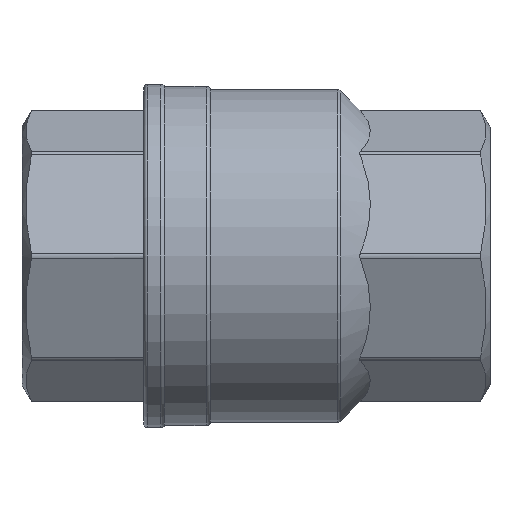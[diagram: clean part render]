
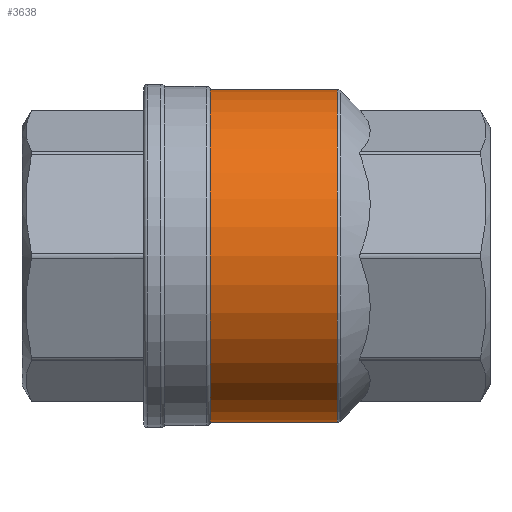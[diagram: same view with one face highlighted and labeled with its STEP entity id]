
A CAD part, front view. The second image highlights one B-rep face of the part: STEP entity #3638.
In plain terms, the highlighted cylindrical face has radius 80 mm (diameter 160 mm), a partial arc.
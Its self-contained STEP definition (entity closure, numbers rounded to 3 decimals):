
#356 = CARTESIAN_POINT ( 'NONE',  ( 39.172, 0., 0. ) ) ;
#371 = DIRECTION ( 'NONE',  ( -1., 0., 0. ) ) ;
#372 = DIRECTION ( 'NONE',  ( 0., 0., -1. ) ) ;
#373 = CARTESIAN_POINT ( 'NONE',  ( -22., 0., 0. ) ) ;
#375 = DIRECTION ( 'NONE',  ( 1., 0., 0. ) ) ;
#376 = DIRECTION ( 'NONE',  ( 0., 0., 1. ) ) ;
#833 = CARTESIAN_POINT ( 'NONE',  ( -22., 0., -80. ) ) ;
#834 = DIRECTION ( 'NONE',  ( 1., 0., 0. ) ) ;
#861 = CARTESIAN_POINT ( 'NONE',  ( -22., 0., 80. ) ) ;
#862 = DIRECTION ( 'NONE',  ( 1., 0., 0. ) ) ;
#1529 = CYLINDRICAL_SURFACE ( 'NONE', #2105, 80. ) ;
#1535 = FACE_OUTER_BOUND ( 'NONE', #3061, .T. ) ;
#1770 = DIRECTION ( 'NONE',  ( 1., 0., 0. ) ) ;
#1773 = DIRECTION ( 'NONE',  ( 0., 0., -1. ) ) ;
#1778 = CARTESIAN_POINT ( 'NONE',  ( -22., 0., 0. ) ) ;
#1996 = AXIS2_PLACEMENT_3D ( 'NONE', #373, #375, #376 ) ;
#1998 = AXIS2_PLACEMENT_3D ( 'NONE', #356, #371, #372 ) ;
#2105 = AXIS2_PLACEMENT_3D ( 'NONE', #1778, #1770, #1773 ) ;
#2184 = CARTESIAN_POINT ( 'NONE',  ( 39.172, 0., -80. ) ) ;
#2186 = CARTESIAN_POINT ( 'NONE',  ( 39.172, 0., 80. ) ) ;
#2226 = VERTEX_POINT ( 'NONE', #2186 ) ;
#2228 = VERTEX_POINT ( 'NONE', #2184 ) ;
#2254 = VERTEX_POINT ( 'NONE', #2444 ) ;
#2260 = VERTEX_POINT ( 'NONE', #2438 ) ;
#2438 = CARTESIAN_POINT ( 'NONE',  ( -22., 0., -80. ) ) ;
#2444 = CARTESIAN_POINT ( 'NONE',  ( -22., 0., 80. ) ) ;
#2490 = LINE ( 'NONE', #833, #2505 ) ;
#2491 = VECTOR ( 'NONE', #862, 1000. ) ;
#2505 = VECTOR ( 'NONE', #834, 1000. ) ;
#2506 = LINE ( 'NONE', #861, #2491 ) ;
#2639 = CIRCLE ( 'NONE', #1996, 80. ) ;
#2641 = CIRCLE ( 'NONE', #1998, 80. ) ;
#3061 = EDGE_LOOP ( 'NONE', ( #3714, #3713, #3712, #3711 ) ) ;
#3371 = EDGE_CURVE ( 'NONE', #2228, #2226, #2641, .T. ) ;
#3372 = EDGE_CURVE ( 'NONE', #2254, #2260, #2639, .T. ) ;
#3479 = EDGE_CURVE ( 'NONE', #2260, #2228, #2490, .T. ) ;
#3481 = EDGE_CURVE ( 'NONE', #2254, #2226, #2506, .T. ) ;
#3638 = ADVANCED_FACE ( 'NONE', ( #1535 ), #1529, .T. ) ;
#3711 = ORIENTED_EDGE ( 'NONE', *, *, #3371, .T. ) ;
#3712 = ORIENTED_EDGE ( 'NONE', *, *, #3479, .T. ) ;
#3713 = ORIENTED_EDGE ( 'NONE', *, *, #3372, .T. ) ;
#3714 = ORIENTED_EDGE ( 'NONE', *, *, #3481, .F. ) ;
